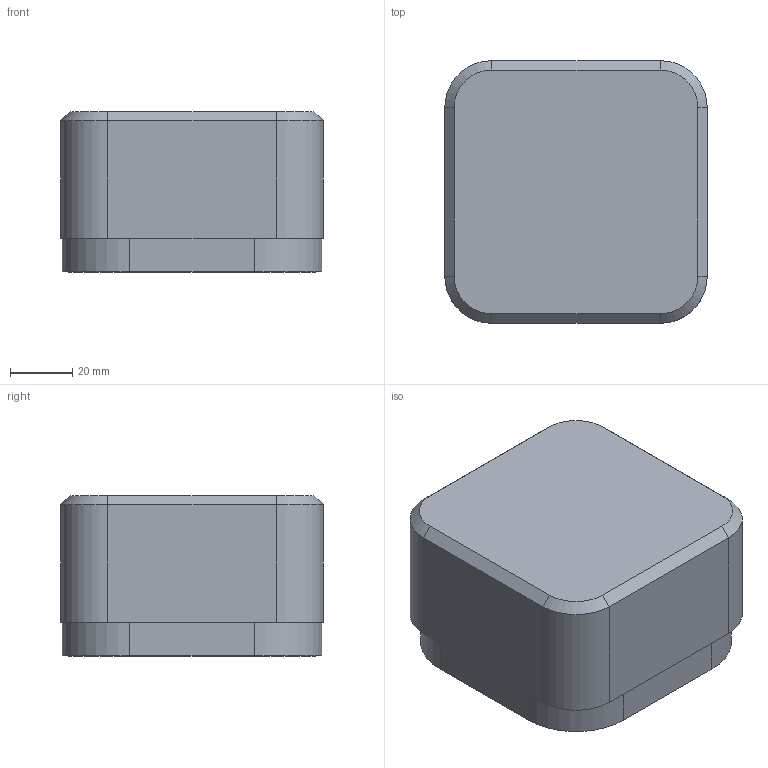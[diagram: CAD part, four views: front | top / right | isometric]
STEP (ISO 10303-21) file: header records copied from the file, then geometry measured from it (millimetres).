
FILE_DESCRIPTION(/* description */ (''),/* implementation_level */ '2;1');
FILE_NAME(/* name */ 'LA-3007-1683-A.stp',/* time_stamp */ '2016-10-18T11:27:39+01:00',/* author */ (''),/* organization */ (''),/* preprocessor_version */ 'ST-DEVELOPER v16',/* originating_system */ 'SIEMENS PLM Software NX 10.0',/* authorisation */ '');
FILE_SCHEMA (('AUTOMOTIVE_DESIGN { 1 0 10303 214 3 1 1 1 }'));
Length unit declared in the file: millimetre
Products named in the file (1): rt13173091B78ed7
Bounding box: 84 x 84 x 51.5 mm (x, y, z)
Volume: 347859.8 mm3; surface area: 28977.3 mm2
Topology: 1 solids, 1 shells, 36 faces, 88 edges, 56 vertices
Faces by surface type: plane 20, cylinder 12, cone 4
Entity records: 1088 total; most frequent: DIRECTION 190, CARTESIAN_POINT 181, ORIENTED_EDGE 176, EDGE_CURVE 88, AXIS2_PLACEMENT_3D 65, LINE 60, VECTOR 60, VERTEX_POINT 56
